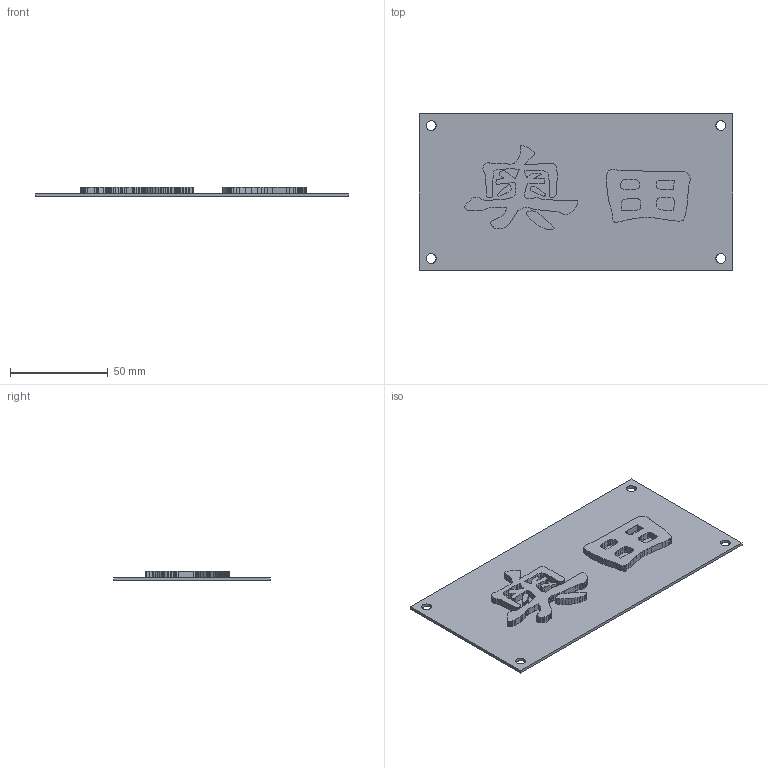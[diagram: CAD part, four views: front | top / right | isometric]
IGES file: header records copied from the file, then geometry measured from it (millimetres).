
Bounding box: 160 x 80 x 5 mm (x, y, z)
Volume: 25079.1 mm3; surface area: 28662.6 mm2
Topology: 1 solids, 1 shells, 560 faces, 1647 edges, 1098 vertices
Faces by surface type: bspline 560
